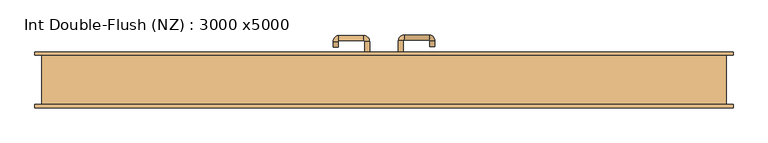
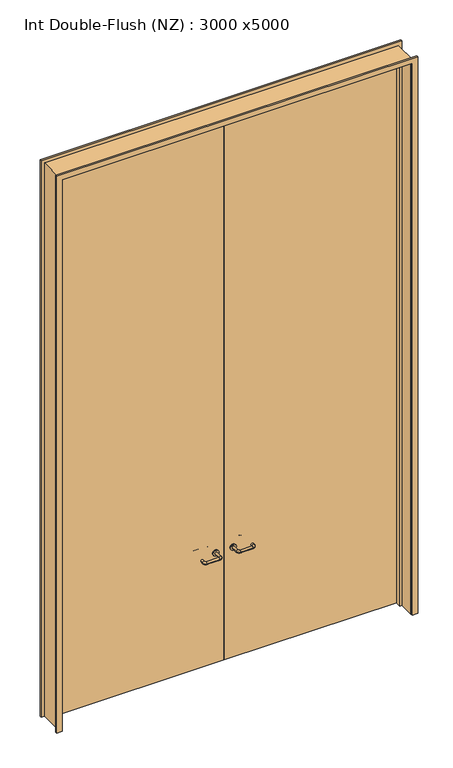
"""IFC4 building model written with IfcOpenShell, lengths in millimetres: door geometry, Int Double-Flush (NZ) : 3000 x5000."""

from ifc_helpers import new_model, si_unit, point, frame, frame_2d, origin, place, context, project, spatial, polyline, circle_curve, ellipse_curve, trimmed, segment, composite_curve, outline, extrude, faceted_brep, source, transform, mapped, element, save
from ifc_brep_helpers import plane_surface, cylinder_surface, revolved_surface, advanced_brep


def int_double_flush_nz_3000_x5000_c8156784(model_context):
    return source(origin(), model_context, "Body", "SolidModel", [
        extrude(outline(polyline([(5019.0, -1519.0), (0.0, -1519.0), (0.0, -1500.0), (5000.0, -1500.0), (5000.0, 1500.0), (0.0, 1500.0), (0.0, 1519.0), (5019.0, 1519.0), (5019.0, -1519.0)])), frame((0.0, -110.0, 0.0), z_axis=(0.0, 1.0, 0.0), x_axis=(0.0, 0.0, 1.0)), (0.0, 0.0, 1.0), 220.0),
        faceted_brep([(-1483.2857143, 69.0, 0.0), (-1483.2857143, 24.0, 0.0), (-1500.0, 24.0, 0.0), (-1500.0, 69.0, 0.0), (-1483.2857143, 69.0, 4983.2857143), (-1483.2857143, 24.0, 4983.2857143), (-1500.0, 24.0, 5000.0), (-1500.0, 69.0, 5000.0), (1483.2857143, 69.0, 0.0), (1500.0, 69.0, 0.0), (1500.0, 24.0, 0.0), (1483.2857143, 24.0, 0.0), (1483.2857143, 69.0, 4983.2857143), (1500.0, 69.0, 5000.0), (1500.0, 24.0, 5000.0), (1483.2857143, 24.0, 4983.2857143)], [[[0, 1, 2, 3]], [[1, 0, 4, 5]], [[2, 1, 5, 6]], [[3, 2, 6, 7]], [[0, 3, 7, 4]], [[8, 9, 10, 11]], [[12, 13, 9, 8]], [[13, 14, 10, 9]], [[14, 15, 11, 10]], [[15, 12, 8, 11]], [[5, 4, 12, 15]], [[6, 5, 15, 14]], [[7, 6, 14, 13]], [[4, 7, 13, 12]]]),
        extrude(outline(polyline([(5050.0, 1550.0), (5050.0, -1550.0), (0.0, -1550.0), (0.0, -1505.0), (5005.0, -1505.0), (5005.0, 1505.0), (0.0, 1505.0), (0.0, 1550.0), (5050.0, 1550.0)])), frame((0.0, 110.0, 0.0), z_axis=(0.0, 1.0, 0.0), x_axis=(0.0, 0.0, 1.0)), (0.0, 0.0, 1.0), 15.0),
        extrude(outline(polyline([(5050.0, -1550.0), (0.0, -1550.0), (0.0, -1505.0), (5005.0, -1505.0), (5005.0, 1505.0), (0.0, 1505.0), (0.0, 1550.0), (5050.0, 1550.0), (5050.0, -1550.0)])), frame((0.0, -125.0, 0.0), z_axis=(0.0, 1.0, 0.0), x_axis=(0.0, 0.0, 1.0)), (0.0, 0.0, 1.0), 15.0),
        extrude(outline(polyline([(-0.9250294, 72.0), (-1497.0, 72.0), (-1497.0, 110.0), (-0.9250294, 110.0), (-0.9250294, 72.0)])), frame((0.0, 0.0, 1.753223), z_axis=(0.0, 0.0, 1.0), x_axis=(1.0, 0.0, 0.0)), (0.0, 0.0, 1.0), 4995.246777),
        extrude(outline(polyline([(1497.0, 72.0), (-0.9250294, 72.0), (-0.9250294, 110.0), (1497.0, 110.0), (1497.0, 72.0)])), frame((0.0, 0.0, 1.753223), z_axis=(0.0, 0.0, 1.0), x_axis=(1.0, 0.0, 0.0)), (0.0, 0.0, 1.0), 4995.246777),
        extrude(outline(polyline([(5019.0, -1519.0), (0.0, -1519.0), (0.0, -1500.0), (5000.0, -1500.0), (5000.0, 1500.0), (0.0, 1500.0), (0.0, 1519.0), (5019.0, 1519.0), (5019.0, -1519.0)])), frame((0.0, -110.0, 0.0), z_axis=(0.0, 1.0, 0.0), x_axis=(0.0, 0.0, 1.0)), (0.0, 0.0, 1.0), 220.0),
        advanced_brep(
        [(64.0, 62.0, 1003.0), (86.0, 62.0, 1003.0), (64.0, 6.6474631, 1003.0), (86.0, 6.6474631, 1003.0), (90.0, 2.6474631, 1003.0), (90.0, -19.3525369, 1003.0), (200.0, -19.3525369, 1003.0), (200.0, 2.6474631, 1003.0), (204.0, 6.6474631, 1003.0), (226.0, 6.6474631, 1003.0), (226.0, 24.0, 1003.0), (204.0, 24.0, 1003.0)],
        [
            (0, 1, circle_curve(frame((75.0, 62.0, 1003.0), z_axis=(0.0, 1.0, 0.0), x_axis=(1.0, 0.0, 0.0)), 11.0)),
            (1, 0, circle_curve(frame((75.0, 62.0, 1003.0), z_axis=(0.0, 1.0, 0.0), x_axis=(1.0, 0.0, 0.0)), 11.0)),
            (0, 2),
            (2, 3, circle_curve(frame((75.0, 6.6474631, 1003.0), z_axis=(0.0, 1.0, 0.0), x_axis=(1.0, 0.0, 0.0)), 11.0)),
            (3, 1),
            (3, 2, circle_curve(frame((75.0, 6.6474631, 1003.0), z_axis=(0.0, 1.0, 0.0), x_axis=(1.0, 0.0, 0.0)), 11.0)),
            (4, 3, circle_curve(frame((90.0, 6.6474631, 1003.0), z_axis=(0.0, 0.0, -1.0), x_axis=(-1.0, 0.0, 0.0)), 4.0)),
            (2, 5, circle_curve(frame((90.0, 6.6474631, 1003.0), z_axis=(0.0, 0.0, 1.0), x_axis=(-1.0, 0.0, 0.0)), 26.0)),
            (5, 4, circle_curve(frame((90.0, -8.3525369, 1003.0), z_axis=(-1.0, 0.0, 0.0), x_axis=(0.0, 1.0, 0.0)), 11.0)),
            (4, 5, circle_curve(frame((90.0, -8.3525369, 1003.0), z_axis=(-1.0, 0.0, 0.0), x_axis=(0.0, 1.0, 0.0)), 11.0)),
            (5, 6),
            (6, 7, circle_curve(frame((200.0, -8.3525369, 1003.0), z_axis=(-1.0, 0.0, 0.0), x_axis=(0.0, 1.0, 0.0)), 11.0)),
            (7, 4),
            (7, 6, circle_curve(frame((200.0, -8.3525369, 1003.0), z_axis=(-1.0, 0.0, 0.0), x_axis=(0.0, 1.0, 0.0)), 11.0)),
            (8, 7, circle_curve(frame((200.0, 6.6474631, 1003.0), z_axis=(0.0, 0.0, -1.0), x_axis=(0.0, -1.0, 0.0)), 4.0)),
            (6, 9, circle_curve(frame((200.0, 6.6474631, 1003.0), z_axis=(0.0, 0.0, 1.0), x_axis=(0.0, -1.0, 0.0)), 26.0)),
            (9, 8, circle_curve(frame((215.0, 6.6474631, 1003.0), z_axis=(0.0, -1.0, 0.0), x_axis=(-1.0, 0.0, 0.0)), 11.0)),
            (8, 9, circle_curve(frame((215.0, 6.6474631, 1003.0), z_axis=(0.0, -1.0, 0.0), x_axis=(-1.0, 0.0, 0.0)), 11.0)),
            (10, 11, circle_curve(frame((215.0, 24.0, 1003.0), z_axis=(0.0, 1.0, 0.0), x_axis=(-1.0, 0.0, 0.0)), 11.0)),
            (11, 10, circle_curve(frame((215.0, 24.0, 1003.0), z_axis=(0.0, 1.0, 0.0), x_axis=(-1.0, 0.0, 0.0)), 11.0)),
            (9, 10),
            (11, 8),
        ],
        [
            plane_surface(frame((64.0, 62.0, 1003.0), z_axis=(0.0, 1.0, 0.0), x_axis=(0.0, 0.0, -1.0))),
            cylinder_surface(frame((75.0, 62.0, 1003.0), z_axis=(0.0, 1.0, 0.0), x_axis=(1.0, 0.0, 0.0)), 11.0),
            revolved_surface(trimmed(ellipse_curve(frame((75.0, 6.6474631, 1003.0), z_axis=(0.0, 1.0, 0.0), x_axis=(1.0, 0.0, 0.0)), 11.0, 11.0), [point((64.0, 6.6474631, 1003.0))], [point((86.0, 6.6474631, 1003.0))], True, "CARTESIAN"), (90.0, 6.6474631, 1003.0), (0.0, 0.0, 1.0)),
            revolved_surface(trimmed(ellipse_curve(frame((75.0, 6.6474631, 1003.0), z_axis=(0.0, 1.0, 0.0), x_axis=(1.0, 0.0, 0.0)), 11.0, 11.0), [point((86.0, 6.6474631, 1003.0))], [point((64.0, 6.6474631, 1003.0))], True, "CARTESIAN"), (90.0, 6.6474631, 1003.0), (0.0, 0.0, 1.0)),
            cylinder_surface(frame((90.0, -8.3525369, 1003.0), z_axis=(-1.0, 0.0, 0.0), x_axis=(0.0, 1.0, 0.0)), 11.0),
            revolved_surface(trimmed(ellipse_curve(frame((200.0, -8.3525369, 1003.0), z_axis=(-1.0, 0.0, 0.0), x_axis=(0.0, 1.0, 0.0)), 11.0, 11.0), [point((200.0, -19.3525369, 1003.0))], [point((200.0, 2.6474631, 1003.0))], True, "CARTESIAN"), (200.0, 6.6474631, 1003.0), (0.0, 0.0, 1.0)),
            revolved_surface(trimmed(ellipse_curve(frame((200.0, -8.3525369, 1003.0), z_axis=(-1.0, 0.0, 0.0), x_axis=(0.0, 1.0, 0.0)), 11.0, 11.0), [point((200.0, 2.6474631, 1003.0))], [point((200.0, -19.3525369, 1003.0))], True, "CARTESIAN"), (200.0, 6.6474631, 1003.0), (0.0, 0.0, 1.0)),
            plane_surface(frame((204.0, 24.0, 1003.0), z_axis=(0.0, 1.0, 0.0), x_axis=(0.0, 0.0, 1.0))),
            cylinder_surface(frame((215.0, 6.6474631, 1003.0), z_axis=(0.0, -1.0, 0.0), x_axis=(-1.0, 0.0, 0.0)), 11.0),
        ],
        [
            (0, [[1, 2]]),
            (1, [[-1, 3, 4, 5]]),
            (1, [[-2, -5, 6, -3]]),
            (2, [[7, -4, 8, 9]]),
            (3, [[-8, -6, -7, 10]]),
            (4, [[-9, 11, 12, 13]]),
            (4, [[-10, -13, 14, -11]]),
            (5, [[15, -12, 16, 17]]),
            (6, [[-16, -14, -15, 18]]),
            (7, [[19, 20]]),
            (8, [[-17, 21, -20, 22]]),
            (8, [[-18, -22, -19, -21]]),
        ],
    ),
        extrude(outline(composite_curve([segment(trimmed(circle_curve(frame_2d((1003.0, 75.0)), 25.0), [point((1003.0, 50.0))], [point((1003.0, 100.0))], False, "CARTESIAN"), True, "CONTINUOUS"), segment(trimmed(circle_curve(frame_2d((1003.0, 75.0)), 25.0), [point((1003.0, 100.0))], [point((1003.0, 50.0))], False, "CARTESIAN"), True, "CONTINUOUS")], self_intersect=False)), frame((0.0, 62.0, 0.0), z_axis=(0.0, 1.0, 0.0), x_axis=(0.0, 0.0, 1.0)), (0.0, 0.0, 1.0), 10.0),
        advanced_brep(
        [(86.0, 120.0, 1003.0), (64.0, 120.0, 1003.0), (86.0, 175.0, 1003.0), (64.0, 175.0, 1003.0), (90.0, 201.0, 1003.0), (90.0, 179.0, 1003.0), (200.0, 179.0, 1003.0), (200.0, 201.0, 1003.0), (226.0, 175.0, 1003.0), (204.0, 175.0, 1003.0), (204.0, 150.0, 1003.0), (226.0, 150.0, 1003.0)],
        [
            (0, 1, circle_curve(frame((75.0, 120.0, 1003.0), z_axis=(0.0, -1.0, 0.0), x_axis=(-1.0, 0.0, 0.0)), 11.0)),
            (1, 0, circle_curve(frame((75.0, 120.0, 1003.0), z_axis=(0.0, -1.0, 0.0), x_axis=(-1.0, 0.0, 0.0)), 11.0)),
            (0, 2),
            (2, 3, circle_curve(frame((75.0, 175.0, 1003.0), z_axis=(0.0, -1.0, 0.0), x_axis=(-1.0, 0.0, 0.0)), 11.0)),
            (3, 1),
            (3, 2, circle_curve(frame((75.0, 175.0, 1003.0), z_axis=(0.0, -1.0, 0.0), x_axis=(-1.0, 0.0, 0.0)), 11.0)),
            (4, 3, circle_curve(frame((90.0, 175.0, 1003.0), z_axis=(0.0, 0.0, 1.0), x_axis=(-1.0, 0.0, 0.0)), 26.0)),
            (2, 5, circle_curve(frame((90.0, 175.0, 1003.0), z_axis=(0.0, 0.0, -1.0), x_axis=(-1.0, 0.0, 0.0)), 4.0)),
            (5, 4, circle_curve(frame((90.0, 190.0, 1003.0), z_axis=(-1.0, 0.0, 0.0), x_axis=(0.0, 1.0, 0.0)), 11.0)),
            (4, 5, circle_curve(frame((90.0, 190.0, 1003.0), z_axis=(-1.0, 0.0, 0.0), x_axis=(0.0, 1.0, 0.0)), 11.0)),
            (5, 6),
            (6, 7, circle_curve(frame((200.0, 190.0, 1003.0), z_axis=(-1.0, 0.0, 0.0), x_axis=(0.0, 1.0, 0.0)), 11.0)),
            (7, 4),
            (7, 6, circle_curve(frame((200.0, 190.0, 1003.0), z_axis=(-1.0, 0.0, 0.0), x_axis=(0.0, 1.0, 0.0)), 11.0)),
            (8, 7, circle_curve(frame((200.0, 175.0, 1003.0), z_axis=(0.0, 0.0, 1.0), x_axis=(0.0, 1.0, 0.0)), 26.0)),
            (6, 9, circle_curve(frame((200.0, 175.0, 1003.0), z_axis=(0.0, 0.0, -1.0), x_axis=(0.0, 1.0, 0.0)), 4.0)),
            (9, 8, circle_curve(frame((215.0, 175.0, 1003.0), z_axis=(0.0, 1.0, 0.0), x_axis=(1.0, 0.0, 0.0)), 11.0)),
            (8, 9, circle_curve(frame((215.0, 175.0, 1003.0), z_axis=(0.0, 1.0, 0.0), x_axis=(1.0, 0.0, 0.0)), 11.0)),
            (10, 11, circle_curve(frame((215.0, 150.0, 1003.0), z_axis=(0.0, -1.0, 0.0), x_axis=(1.0, 0.0, 0.0)), 11.0)),
            (11, 10, circle_curve(frame((215.0, 150.0, 1003.0), z_axis=(0.0, -1.0, 0.0), x_axis=(1.0, 0.0, 0.0)), 11.0)),
            (9, 10),
            (11, 8),
        ],
        [
            plane_surface(frame((64.0, 120.0, 1003.0), z_axis=(0.0, -1.0, 0.0), x_axis=(0.0, 0.0, 1.0))),
            cylinder_surface(frame((75.0, 120.0, 1003.0), z_axis=(0.0, -1.0, 0.0), x_axis=(-1.0, 0.0, 0.0)), 11.0),
            revolved_surface(trimmed(ellipse_curve(frame((75.0, 175.0, 1003.0), z_axis=(0.0, -1.0, 0.0), x_axis=(-1.0, 0.0, 0.0)), 11.0, 11.0), [point((86.0, 175.0, 1003.0))], [point((64.0, 175.0, 1003.0))], True, "CARTESIAN"), (90.0, 175.0, 1003.0), (0.0, 0.0, -1.0)),
            revolved_surface(trimmed(ellipse_curve(frame((75.0, 175.0, 1003.0), z_axis=(0.0, -1.0, 0.0), x_axis=(-1.0, 0.0, 0.0)), 11.0, 11.0), [point((64.0, 175.0, 1003.0))], [point((86.0, 175.0, 1003.0))], True, "CARTESIAN"), (90.0, 175.0, 1003.0), (0.0, 0.0, -1.0)),
            cylinder_surface(frame((90.0, 190.0, 1003.0), z_axis=(-1.0, 0.0, 0.0), x_axis=(0.0, 1.0, 0.0)), 11.0),
            revolved_surface(trimmed(ellipse_curve(frame((200.0, 190.0, 1003.0), z_axis=(-1.0, 0.0, 0.0), x_axis=(0.0, 1.0, 0.0)), 11.0, 11.0), [point((200.0, 179.0, 1003.0))], [point((200.0, 201.0, 1003.0))], True, "CARTESIAN"), (200.0, 175.0, 1003.0), (0.0, 0.0, -1.0)),
            revolved_surface(trimmed(ellipse_curve(frame((200.0, 190.0, 1003.0), z_axis=(-1.0, 0.0, 0.0), x_axis=(0.0, 1.0, 0.0)), 11.0, 11.0), [point((200.0, 201.0, 1003.0))], [point((200.0, 179.0, 1003.0))], True, "CARTESIAN"), (200.0, 175.0, 1003.0), (0.0, 0.0, -1.0)),
            plane_surface(frame((204.0, 150.0, 1003.0), z_axis=(0.0, -1.0, 0.0), x_axis=(0.0, 0.0, -1.0))),
            cylinder_surface(frame((215.0, 175.0, 1003.0), z_axis=(0.0, 1.0, 0.0), x_axis=(1.0, 0.0, 0.0)), 11.0),
        ],
        [
            (0, [[1, 2]]),
            (1, [[-1, 3, 4, 5]]),
            (1, [[-2, -5, 6, -3]]),
            (2, [[7, -4, 8, 9]]),
            (3, [[-8, -6, -7, 10]]),
            (4, [[-9, 11, 12, 13]]),
            (4, [[-10, -13, 14, -11]]),
            (5, [[15, -12, 16, 17]]),
            (6, [[-16, -14, -15, 18]]),
            (7, [[19, 20]]),
            (8, [[-17, 21, -20, 22]]),
            (8, [[-18, -22, -19, -21]]),
        ],
    ),
        extrude(outline(composite_curve([segment(trimmed(circle_curve(frame_2d((1003.0, 75.0)), 25.0), [point((1003.0, 100.0))], [point((1003.0, 50.0))], False, "CARTESIAN"), True, "CONTINUOUS"), segment(trimmed(circle_curve(frame_2d((1003.0, 75.0)), 25.0), [point((1003.0, 50.0))], [point((1003.0, 100.0))], False, "CARTESIAN"), True, "CONTINUOUS")], self_intersect=False)), frame((0.0, 110.0, 0.0), z_axis=(0.0, 1.0, 0.0), x_axis=(0.0, 0.0, 1.0)), (0.0, 0.0, 1.0), 10.0),
        advanced_brep(
        [(-86.0, 55.6886121, 1003.0), (-64.0, 55.6886121, 1003.0), (-86.0, 0.2779553, 1003.0), (-64.0, 0.2779553, 1003.0), (-90.0, -25.7220447, 1003.0), (-90.0, -3.7220447, 1003.0), (-200.0, -3.7220447, 1003.0), (-200.0, -25.7220447, 1003.0), (-226.0, 0.2779553, 1003.0), (-204.0, 0.2779553, 1003.0), (-204.0, 25.2779553, 1003.0), (-226.0, 25.2779553, 1003.0)],
        [
            (0, 1, circle_curve(frame((-75.0, 55.6886121, 1003.0), z_axis=(0.0, 1.0, 0.0), x_axis=(1.0, 0.0, 0.0)), 11.0)),
            (1, 0, circle_curve(frame((-75.0, 55.6886121, 1003.0), z_axis=(0.0, 1.0, 0.0), x_axis=(1.0, 0.0, 0.0)), 11.0)),
            (0, 2),
            (2, 3, circle_curve(frame((-75.0, 0.2779553, 1003.0), z_axis=(0.0, 1.0, 0.0), x_axis=(1.0, 0.0, 0.0)), 11.0)),
            (3, 1),
            (3, 2, circle_curve(frame((-75.0, 0.2779553, 1003.0), z_axis=(0.0, 1.0, 0.0), x_axis=(1.0, 0.0, 0.0)), 11.0)),
            (4, 3, circle_curve(frame((-90.0, 0.2779553, 1003.0), z_axis=(0.0, 0.0, 1.0), x_axis=(1.0, 0.0, 0.0)), 26.0)),
            (2, 5, circle_curve(frame((-90.0, 0.2779553, 1003.0), z_axis=(0.0, 0.0, -1.0), x_axis=(1.0, 0.0, 0.0)), 4.0)),
            (5, 4, circle_curve(frame((-90.0, -14.7220447, 1003.0), z_axis=(1.0, 0.0, 0.0), x_axis=(0.0, -1.0, 0.0)), 11.0)),
            (4, 5, circle_curve(frame((-90.0, -14.7220447, 1003.0), z_axis=(1.0, 0.0, 0.0), x_axis=(0.0, -1.0, 0.0)), 11.0)),
            (5, 6),
            (6, 7, circle_curve(frame((-200.0, -14.7220447, 1003.0), z_axis=(1.0, 0.0, 0.0), x_axis=(0.0, -1.0, 0.0)), 11.0)),
            (7, 4),
            (7, 6, circle_curve(frame((-200.0, -14.7220447, 1003.0), z_axis=(1.0, 0.0, 0.0), x_axis=(0.0, -1.0, 0.0)), 11.0)),
            (8, 7, circle_curve(frame((-200.0, 0.2779553, 1003.0), z_axis=(0.0, 0.0, 1.0), x_axis=(0.0, -1.0, 0.0)), 26.0)),
            (6, 9, circle_curve(frame((-200.0, 0.2779553, 1003.0), z_axis=(0.0, 0.0, -1.0), x_axis=(0.0, -1.0, 0.0)), 4.0)),
            (9, 8, circle_curve(frame((-215.0, 0.2779553, 1003.0), z_axis=(0.0, -1.0, 0.0), x_axis=(-1.0, 0.0, 0.0)), 11.0)),
            (8, 9, circle_curve(frame((-215.0, 0.2779553, 1003.0), z_axis=(0.0, -1.0, 0.0), x_axis=(-1.0, 0.0, 0.0)), 11.0)),
            (10, 11, circle_curve(frame((-215.0, 25.2779553, 1003.0), z_axis=(0.0, 1.0, 0.0), x_axis=(-1.0, 0.0, 0.0)), 11.0)),
            (11, 10, circle_curve(frame((-215.0, 25.2779553, 1003.0), z_axis=(0.0, 1.0, 0.0), x_axis=(-1.0, 0.0, 0.0)), 11.0)),
            (9, 10),
            (11, 8),
        ],
        [
            plane_surface(frame((-86.0, 55.6886121, 1003.0), z_axis=(0.0, 1.0, 0.0), x_axis=(0.0, 0.0, -1.0))),
            cylinder_surface(frame((-75.0, 55.6886121, 1003.0), z_axis=(0.0, 1.0, 0.0), x_axis=(1.0, 0.0, 0.0)), 11.0),
            revolved_surface(trimmed(ellipse_curve(frame((-75.0, 0.2779553, 1003.0), z_axis=(0.0, 1.0, 0.0), x_axis=(1.0, 0.0, 0.0)), 11.0, 11.0), [point((-86.0, 0.2779553, 1003.0))], [point((-64.0, 0.2779553, 1003.0))], True, "CARTESIAN"), (-90.0, 0.2779553, 1003.0), (0.0, 0.0, -1.0)),
            revolved_surface(trimmed(ellipse_curve(frame((-75.0, 0.2779553, 1003.0), z_axis=(0.0, 1.0, 0.0), x_axis=(1.0, 0.0, 0.0)), 11.0, 11.0), [point((-64.0, 0.2779553, 1003.0))], [point((-86.0, 0.2779553, 1003.0))], True, "CARTESIAN"), (-90.0, 0.2779553, 1003.0), (0.0, 0.0, -1.0)),
            cylinder_surface(frame((-90.0, -14.7220447, 1003.0), z_axis=(1.0, 0.0, 0.0), x_axis=(0.0, -1.0, 0.0)), 11.0),
            revolved_surface(trimmed(ellipse_curve(frame((-200.0, -14.7220447, 1003.0), z_axis=(1.0, 0.0, 0.0), x_axis=(0.0, -1.0, 0.0)), 11.0, 11.0), [point((-200.0, -3.7220447, 1003.0))], [point((-200.0, -25.7220447, 1003.0))], True, "CARTESIAN"), (-200.0, 0.2779553, 1003.0), (0.0, 0.0, -1.0)),
            revolved_surface(trimmed(ellipse_curve(frame((-200.0, -14.7220447, 1003.0), z_axis=(1.0, 0.0, 0.0), x_axis=(0.0, -1.0, 0.0)), 11.0, 11.0), [point((-200.0, -25.7220447, 1003.0))], [point((-200.0, -3.7220447, 1003.0))], True, "CARTESIAN"), (-200.0, 0.2779553, 1003.0), (0.0, 0.0, -1.0)),
            plane_surface(frame((-226.0, 25.2779553, 1003.0), z_axis=(0.0, 1.0, 0.0), x_axis=(0.0, 0.0, 1.0))),
            cylinder_surface(frame((-215.0, 0.2779553, 1003.0), z_axis=(0.0, -1.0, 0.0), x_axis=(-1.0, 0.0, 0.0)), 11.0),
        ],
        [
            (0, [[1, 2]]),
            (1, [[-1, 3, 4, 5]]),
            (1, [[-2, -5, 6, -3]]),
            (2, [[7, -4, 8, 9]]),
            (3, [[-8, -6, -7, 10]]),
            (4, [[-9, 11, 12, 13]]),
            (4, [[-10, -13, 14, -11]]),
            (5, [[15, -12, 16, 17]]),
            (6, [[-16, -14, -15, 18]]),
            (7, [[19, 20]]),
            (8, [[-17, 21, -20, 22]]),
            (8, [[-18, -22, -19, -21]]),
        ],
    ),
        extrude(outline(composite_curve([segment(trimmed(circle_curve(frame_2d((1003.0, -75.0)), 25.0), [point((1003.0, -100.0))], [point((1003.0, -50.0))], False, "CARTESIAN"), True, "CONTINUOUS"), segment(trimmed(circle_curve(frame_2d((1003.0, -75.0)), 25.0), [point((1003.0, -50.0))], [point((1003.0, -100.0))], False, "CARTESIAN"), True, "CONTINUOUS")], self_intersect=False)), frame((0.0, 61.6886121, 0.0), z_axis=(0.0, 1.0, 0.0), x_axis=(0.0, 0.0, 1.0)), (0.0, 0.0, 1.0), 10.3113879),
        advanced_brep(
        [(-64.0, 116.5143417, 1003.0), (-86.0, 116.5143417, 1003.0), (-64.0, 171.6104656, 1003.0), (-86.0, 171.6104656, 1003.0), (-90.0, 175.6104656, 1003.0), (-90.0, 197.6104656, 1003.0), (-200.0, 197.6104656, 1003.0), (-200.0, 175.6104656, 1003.0), (-204.0, 171.6104656, 1003.0), (-226.0, 171.6104656, 1003.0), (-226.0, 146.6104656, 1003.0), (-204.0, 146.6104656, 1003.0)],
        [
            (0, 1, circle_curve(frame((-75.0, 116.5143417, 1003.0), z_axis=(0.0, -1.0, 0.0), x_axis=(-1.0, 0.0, 0.0)), 11.0)),
            (1, 0, circle_curve(frame((-75.0, 116.5143417, 1003.0), z_axis=(0.0, -1.0, 0.0), x_axis=(-1.0, 0.0, 0.0)), 11.0)),
            (0, 2),
            (2, 3, circle_curve(frame((-75.0, 171.6104656, 1003.0), z_axis=(0.0, -1.0, 0.0), x_axis=(-1.0, 0.0, 0.0)), 11.0)),
            (3, 1),
            (3, 2, circle_curve(frame((-75.0, 171.6104656, 1003.0), z_axis=(0.0, -1.0, 0.0), x_axis=(-1.0, 0.0, 0.0)), 11.0)),
            (4, 3, circle_curve(frame((-90.0, 171.6104656, 1003.0), z_axis=(0.0, 0.0, -1.0), x_axis=(1.0, 0.0, 0.0)), 4.0)),
            (2, 5, circle_curve(frame((-90.0, 171.6104656, 1003.0), z_axis=(0.0, 0.0, 1.0), x_axis=(1.0, 0.0, 0.0)), 26.0)),
            (5, 4, circle_curve(frame((-90.0, 186.6104656, 1003.0), z_axis=(1.0, 0.0, 0.0), x_axis=(0.0, -1.0, 0.0)), 11.0)),
            (4, 5, circle_curve(frame((-90.0, 186.6104656, 1003.0), z_axis=(1.0, 0.0, 0.0), x_axis=(0.0, -1.0, 0.0)), 11.0)),
            (5, 6),
            (6, 7, circle_curve(frame((-200.0, 186.6104656, 1003.0), z_axis=(1.0, 0.0, 0.0), x_axis=(0.0, -1.0, 0.0)), 11.0)),
            (7, 4),
            (7, 6, circle_curve(frame((-200.0, 186.6104656, 1003.0), z_axis=(1.0, 0.0, 0.0), x_axis=(0.0, -1.0, 0.0)), 11.0)),
            (8, 7, circle_curve(frame((-200.0, 171.6104656, 1003.0), z_axis=(0.0, 0.0, -1.0), x_axis=(0.0, 1.0, 0.0)), 4.0)),
            (6, 9, circle_curve(frame((-200.0, 171.6104656, 1003.0), z_axis=(0.0, 0.0, 1.0), x_axis=(0.0, 1.0, 0.0)), 26.0)),
            (9, 8, circle_curve(frame((-215.0, 171.6104656, 1003.0), z_axis=(0.0, 1.0, 0.0), x_axis=(1.0, 0.0, 0.0)), 11.0)),
            (8, 9, circle_curve(frame((-215.0, 171.6104656, 1003.0), z_axis=(0.0, 1.0, 0.0), x_axis=(1.0, 0.0, 0.0)), 11.0)),
            (10, 11, circle_curve(frame((-215.0, 146.6104656, 1003.0), z_axis=(0.0, -1.0, 0.0), x_axis=(1.0, 0.0, 0.0)), 11.0)),
            (11, 10, circle_curve(frame((-215.0, 146.6104656, 1003.0), z_axis=(0.0, -1.0, 0.0), x_axis=(1.0, 0.0, 0.0)), 11.0)),
            (9, 10),
            (11, 8),
        ],
        [
            plane_surface(frame((-86.0, 116.5143417, 1003.0), z_axis=(0.0, -1.0, 0.0), x_axis=(0.0, 0.0, 1.0))),
            cylinder_surface(frame((-75.0, 116.5143417, 1003.0), z_axis=(0.0, -1.0, 0.0), x_axis=(-1.0, 0.0, 0.0)), 11.0),
            revolved_surface(trimmed(ellipse_curve(frame((-75.0, 171.6104656, 1003.0), z_axis=(0.0, -1.0, 0.0), x_axis=(-1.0, 0.0, 0.0)), 11.0, 11.0), [point((-64.0, 171.6104656, 1003.0))], [point((-86.0, 171.6104656, 1003.0))], True, "CARTESIAN"), (-90.0, 171.6104656, 1003.0), (0.0, 0.0, 1.0)),
            revolved_surface(trimmed(ellipse_curve(frame((-75.0, 171.6104656, 1003.0), z_axis=(0.0, -1.0, 0.0), x_axis=(-1.0, 0.0, 0.0)), 11.0, 11.0), [point((-86.0, 171.6104656, 1003.0))], [point((-64.0, 171.6104656, 1003.0))], True, "CARTESIAN"), (-90.0, 171.6104656, 1003.0), (0.0, 0.0, 1.0)),
            cylinder_surface(frame((-90.0, 186.6104656, 1003.0), z_axis=(1.0, 0.0, 0.0), x_axis=(0.0, -1.0, 0.0)), 11.0),
            revolved_surface(trimmed(ellipse_curve(frame((-200.0, 186.6104656, 1003.0), z_axis=(1.0, 0.0, 0.0), x_axis=(0.0, -1.0, 0.0)), 11.0, 11.0), [point((-200.0, 197.6104656, 1003.0))], [point((-200.0, 175.6104656, 1003.0))], True, "CARTESIAN"), (-200.0, 171.6104656, 1003.0), (0.0, 0.0, 1.0)),
            revolved_surface(trimmed(ellipse_curve(frame((-200.0, 186.6104656, 1003.0), z_axis=(1.0, 0.0, 0.0), x_axis=(0.0, -1.0, 0.0)), 11.0, 11.0), [point((-200.0, 175.6104656, 1003.0))], [point((-200.0, 197.6104656, 1003.0))], True, "CARTESIAN"), (-200.0, 171.6104656, 1003.0), (0.0, 0.0, 1.0)),
            plane_surface(frame((-226.0, 146.6104656, 1003.0), z_axis=(0.0, -1.0, 0.0), x_axis=(0.0, 0.0, -1.0))),
            cylinder_surface(frame((-215.0, 171.6104656, 1003.0), z_axis=(0.0, 1.0, 0.0), x_axis=(1.0, 0.0, 0.0)), 11.0),
        ],
        [
            (0, [[1, 2]]),
            (1, [[-1, 3, 4, 5]]),
            (1, [[-2, -5, 6, -3]]),
            (2, [[7, -4, 8, 9]]),
            (3, [[-8, -6, -7, 10]]),
            (4, [[-9, 11, 12, 13]]),
            (4, [[-10, -13, 14, -11]]),
            (5, [[15, -12, 16, 17]]),
            (6, [[-16, -14, -15, 18]]),
            (7, [[19, 20]]),
            (8, [[-17, 21, -20, 22]]),
            (8, [[-18, -22, -19, -21]]),
        ],
    ),
        extrude(outline(composite_curve([segment(trimmed(circle_curve(frame_2d((1003.0, -75.0)), 25.0), [point((1003.0, -50.0))], [point((1003.0, -100.0))], False, "CARTESIAN"), True, "CONTINUOUS"), segment(trimmed(circle_curve(frame_2d((1003.0, -75.0)), 25.0), [point((1003.0, -100.0))], [point((1003.0, -50.0))], False, "CARTESIAN"), True, "CONTINUOUS")], self_intersect=False)), frame((0.0, 110.0, 0.0), z_axis=(0.0, 1.0, 0.0), x_axis=(0.0, 0.0, 1.0)), (0.0, 0.0, 1.0), 9.5143417),
    ])


if __name__ == "__main__":
    model = new_model("IFC4")
    model_context = context("Model", 3, world=origin())
    ifc_project = project(units=[si_unit("LENGTHUNIT", "METRE", prefix="MILLI")], contexts=[model_context])
    site = spatial("IfcSite", under=ifc_project)
    building = spatial("IfcBuilding", under=site)
    placement = place(None, origin())
    int_double_flush_nz_3000_x5000_shape = int_double_flush_nz_3000_x5000_c8156784(model_context)
    element("IfcDoor", 1, ObjectType="Int Double-Flush (NZ) : 3000 x5000", at=placement, inside=building, context=model_context, shape_type="MappedRepresentation", body=[
        mapped(int_double_flush_nz_3000_x5000_shape, transform((0.0, 0.0, 0.0), x_axis=(1.0, 0.0, 0.0), y_axis=(0.0, 1.0, 0.0), z_axis=(0.0, 0.0, 1.0))),
    ])
    save(model, "model.ifc")
